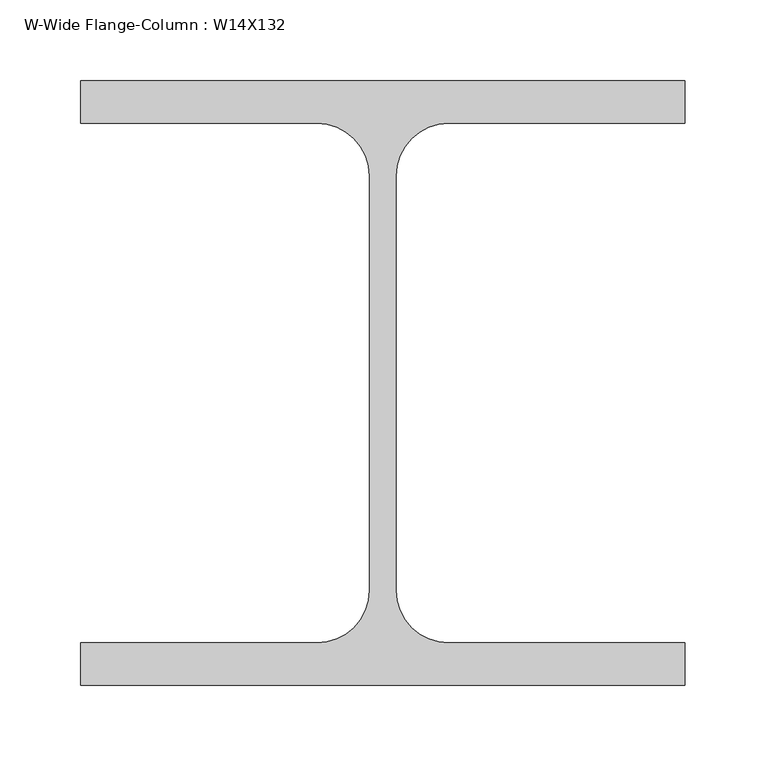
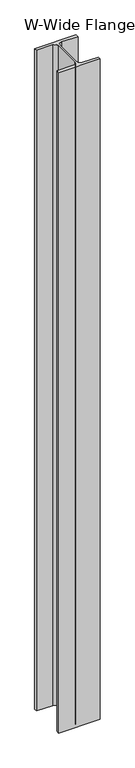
"""IFC4 building model written with IfcOpenShell, lengths in millimetres: column geometry, W-Wide Flange-Column : W14X132."""

from ifc_helpers import new_model, si_unit, point, frame, frame_2d, origin, place, context, project, spatial, polyline, circle_curve, trimmed, segment, composite_curve, outline, extrude, source, transform, mapped, element, save


def w_wide_flange_column_w14x132_1d26bb89(model_context):
    return source(origin(), model_context, "Body", "SweptSolid", [
        extrude(outline(composite_curve([segment(polyline([(186.69, -186.69), (-186.69, -186.69), (-186.69, -160.528), (-40.767, -160.528)]), True, "CONTINUOUS"), segment(trimmed(circle_curve(frame_2d((-40.767, -127.9525)), 32.5755), [point((-40.767, -160.528))], [point((-8.1915, -127.9525))], True, "CARTESIAN"), True, "CONTINUOUS"), segment(polyline([(-8.1915, -127.9525), (-8.1915, 127.9525)]), True, "CONTINUOUS"), segment(trimmed(circle_curve(frame_2d((-40.767, 127.9525)), 32.5755), [point((-8.1915, 127.9525))], [point((-40.767, 160.528))], True, "CARTESIAN"), True, "CONTINUOUS"), segment(polyline([(-40.767, 160.528), (-186.69, 160.528), (-186.69, 186.69), (186.69, 186.69), (186.69, 160.528), (40.767, 160.528)]), True, "CONTINUOUS"), segment(trimmed(circle_curve(frame_2d((40.767, 127.9525)), 32.5755), [point((40.767, 160.528))], [point((8.1915, 127.9525))], True, "CARTESIAN"), True, "CONTINUOUS"), segment(polyline([(8.1915, 127.9525), (8.1915, -127.9525)]), True, "CONTINUOUS"), segment(trimmed(circle_curve(frame_2d((40.767, -127.9525)), 32.5755), [point((8.1915, -127.9525))], [point((40.767, -160.528))], True, "CARTESIAN"), True, "CONTINUOUS"), segment(polyline([(40.767, -160.528), (186.69, -160.528), (186.69, -186.69)]), True, "CONTINUOUS")], self_intersect=False)), frame((0.0, 0.0, -304.8), z_axis=(0.0, 0.0, 1.0), x_axis=(1.0, 0.0, 0.0)), (0.0, 0.0, 1.0), 6273.8),
    ])


if __name__ == "__main__":
    model = new_model("IFC4")
    model_context = context("Model", 3, world=origin())
    ifc_project = project(units=[si_unit("LENGTHUNIT", "METRE", prefix="MILLI")], contexts=[model_context])
    site = spatial("IfcSite", under=ifc_project)
    building = spatial("IfcBuilding", under=site)
    placement = place(None, origin())
    w_wide_flange_column_w14x132_shape = w_wide_flange_column_w14x132_1d26bb89(model_context)
    element("IfcColumn", 1, ObjectType="W-Wide Flange-Column : W14X132", at=placement, inside=building, context=model_context, shape_type="MappedRepresentation", body=[
        mapped(w_wide_flange_column_w14x132_shape, transform((0.0, 0.0, 0.0), x_axis=(1.0, 0.0, 0.0), y_axis=(0.0, 1.0, 0.0), z_axis=(0.0, 0.0, 1.0))),
    ])
    save(model, "model.ifc")
